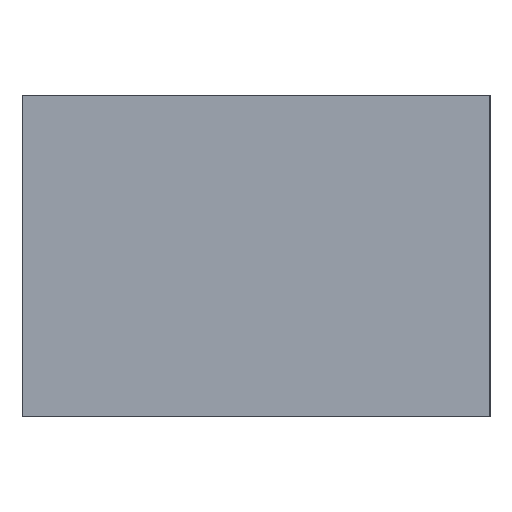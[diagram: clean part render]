
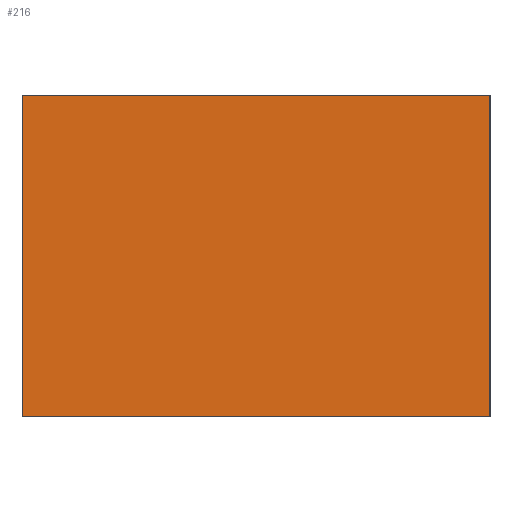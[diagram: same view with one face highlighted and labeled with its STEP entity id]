
A CAD part, left-side view. The second image highlights one B-rep face of the part: STEP entity #216.
In plain terms, the highlighted planar face has unit normal (-1, 0, 0).
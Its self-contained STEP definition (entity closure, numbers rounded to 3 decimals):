
#216=ADVANCED_FACE('',(#647),#649,.T.);
#647=FACE_BOUND('',#648,.T.);
#648=EDGE_LOOP('',(#974,#975,#976,#977));
#649=PLANE('',#650);
#650=AXIS2_PLACEMENT_3D('',#651,#652,#653);
#651=CARTESIAN_POINT('',(-0.8,-0.4,-0.05));
#652=DIRECTION('',(-1.,0.,0.));
#653=DIRECTION('',(0.,0.,1.));
#974=ORIENTED_EDGE('',*,*,#1180,.T.);
#975=ORIENTED_EDGE('',*,*,#1190,.T.);
#976=ORIENTED_EDGE('',*,*,#1185,.F.);
#977=ORIENTED_EDGE('',*,*,#1191,.F.);
#1180=EDGE_CURVE('',#1321,#1319,#1322,.T.);
#1185=EDGE_CURVE('',#1328,#1330,#1331,.T.);
#1190=EDGE_CURVE('',#1319,#1330,#1337,.T.);
#1191=EDGE_CURVE('',#1321,#1328,#1338,.T.);
#1319=VERTEX_POINT('',#1570);
#1321=VERTEX_POINT('',#1574);
#1322=LINE('',#1575,#1576);
#1328=VERTEX_POINT('',#1589);
#1330=VERTEX_POINT('',#1593);
#1331=LINE('',#1594,#1595);
#1337=LINE('',#1610,#1611);
#1338=LINE('',#1613,#1614);
#1570=CARTESIAN_POINT('',(-0.8,-0.4,0.5));
#1574=CARTESIAN_POINT('',(-0.8,-0.4,-0.05));
#1575=CARTESIAN_POINT('',(-0.8,-0.4,-0.05));
#1576=VECTOR('',#1577,1.);
#1577=DIRECTION('',(0.,0.,1.));
#1589=CARTESIAN_POINT('',(-0.8,0.4,-0.05));
#1593=CARTESIAN_POINT('',(-0.8,0.4,0.5));
#1594=CARTESIAN_POINT('',(-0.8,0.4,-0.05));
#1595=VECTOR('',#1596,1.);
#1596=DIRECTION('',(0.,0.,1.));
#1610=CARTESIAN_POINT('',(-0.8,-0.4,0.5));
#1611=VECTOR('',#1612,1.);
#1612=DIRECTION('',(0.,1.,0.));
#1613=CARTESIAN_POINT('',(-0.8,-0.4,-0.05));
#1614=VECTOR('',#1615,1.);
#1615=DIRECTION('',(0.,1.,0.));
